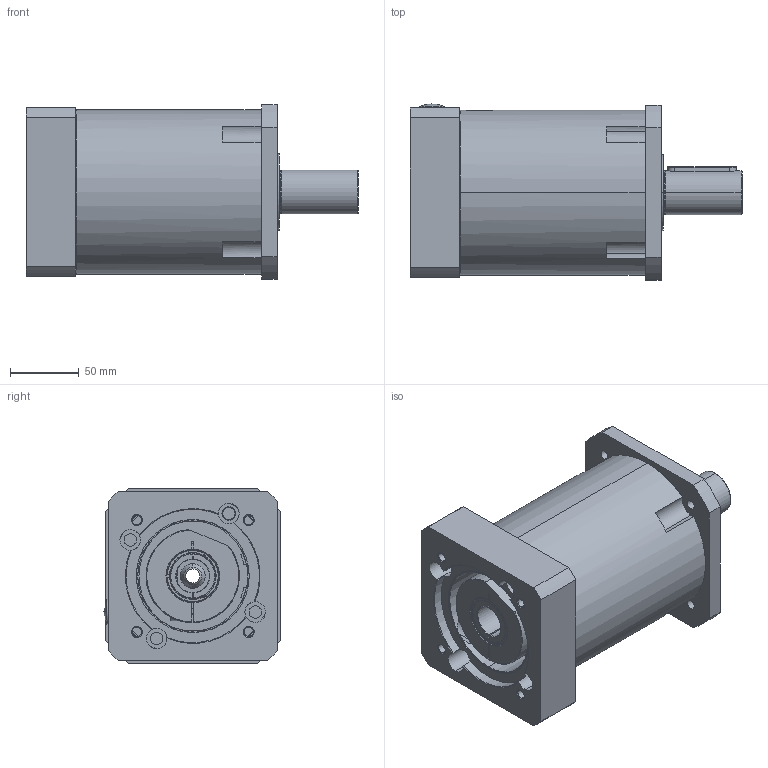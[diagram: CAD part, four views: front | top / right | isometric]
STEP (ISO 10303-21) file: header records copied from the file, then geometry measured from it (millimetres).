
FILE_DESCRIPTION (( 'STEP AP214' ), '1' );
FILE_NAME ('AL-042-RRR-FFF-MMM-S-LL-XXX-AXX-0000.STEP', '2019-10-23T15:39:48', ( '' ), ( '' ), 'SwSTEP 2.0', 'SolidWorks 2019', '' );
FILE_SCHEMA (( 'AUTOMOTIVE_DESIGN' ));
Length unit declared in the file: millimetre
Products named in the file (1): AL-042-RRR-FFF-MMM-S-LL-XXX-AXX-0000
Bounding box: 241.5 x 128.1 x 127 mm (x, y, z)
Surface area: 163093.7 mm2 (no closed solid volume)
Topology: 0 solids, 81 shells, 352 faces, 2158 edges, 1866 vertices
Faces by surface type: plane 159, cylinder 100, cone 53, torus 35, bspline 3, sphere 2
Entity records: 32112 total; most frequent: CARTESIAN_POINT 13182, ORIENTED_EDGE 2741, DIRECTION 2561, EDGE_CURVE 2150, VERTEX_POINT 1866, VECTOR 1025, LINE 1025, AXIS2_PLACEMENT_3D 768
